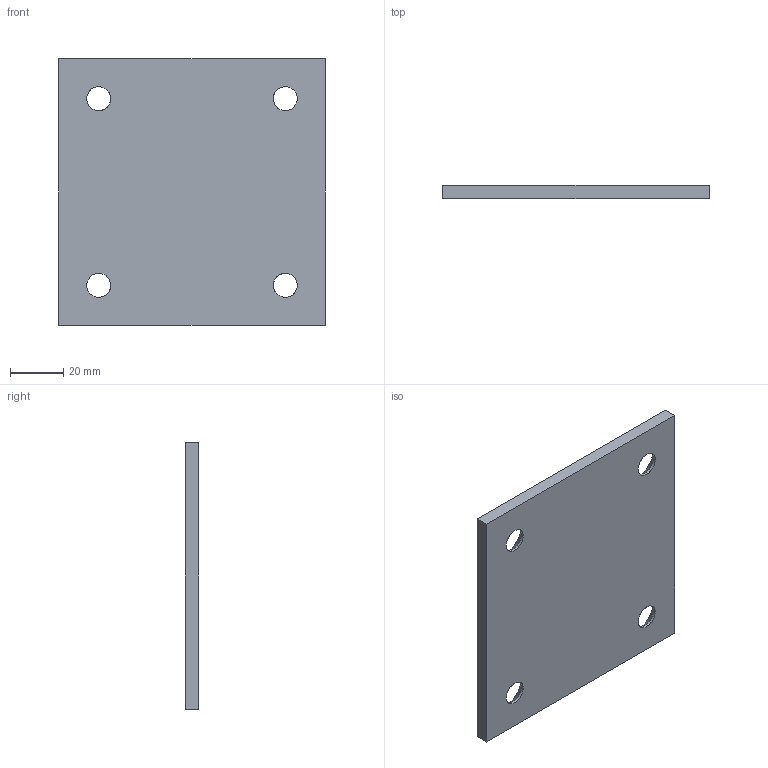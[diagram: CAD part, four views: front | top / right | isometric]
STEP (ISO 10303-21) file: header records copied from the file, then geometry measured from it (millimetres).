
FILE_DESCRIPTION(('CATIA V5 STEP Exchange'),'2;1');
FILE_NAME('C:\Users\Utente\Desktop\3D files A605\A605-100-100.stp','2020-04-13T15:42:49+00:00',('none'),('none'),'CATIA Version 5 Release 20 GA (IN-10)','CATIA V5 STEP AP203','none');
FILE_SCHEMA(('CONFIG_CONTROL_DESIGN'));
Length unit declared in the file: millimetre
Products named in the file (1): Noname
Bounding box: 100 x 5 x 100 mm (x, y, z)
Surface area: 21874.9 mm2 (no closed solid volume)
Topology: 0 solids, 14 shells, 22 faces, 88 edges, 72 vertices
Faces by surface type: cylinder 8, revolution 8, extrusion 6
Entity records: 1146 total; most frequent: CARTESIAN_POINT 405, ORIENTED_EDGE 104, DIRECTION 102, EDGE_CURVE 88, VERTEX_POINT 72, VECTOR 46, AXIS2_PLACEMENT_3D 41, LINE 40
